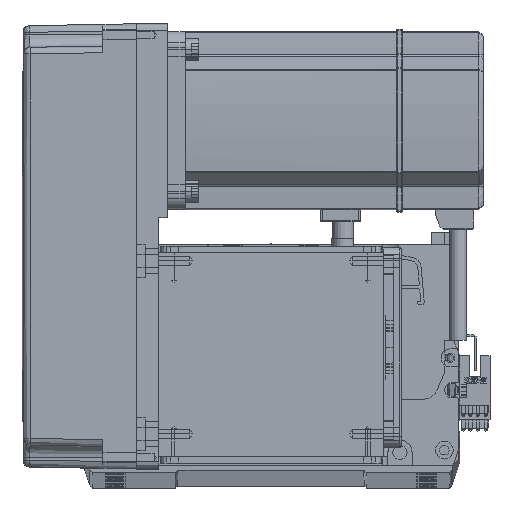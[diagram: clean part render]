
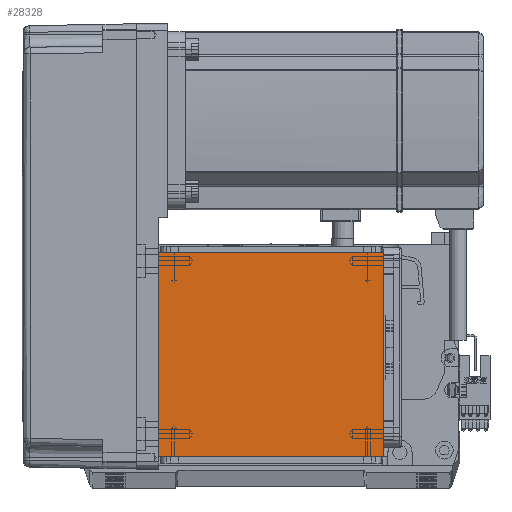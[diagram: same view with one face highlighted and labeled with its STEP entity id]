
A CAD part, top view. The second image highlights one B-rep face of the part: STEP entity #28328.
In plain terms, the highlighted planar face has unit normal (0, 0, 1).
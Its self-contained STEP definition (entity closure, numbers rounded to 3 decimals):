
#3246 = ORIENTED_EDGE ( 'NONE', *, *, #39934, .T. ) ;
#3563 = ORIENTED_EDGE ( 'NONE', *, *, #5451, .F. ) ;
#5107 = DIRECTION ( 'NONE',  ( 0., 1., 0. ) ) ;
#5451 = EDGE_CURVE ( 'NONE', #13254, #40436, #39485, .T. ) ;
#5818 = PLANE ( 'NONE',  #12975 ) ;
#6698 = EDGE_LOOP ( 'NONE', ( #36540, #3246, #3563, #57270 ) ) ;
#10858 = VECTOR ( 'NONE', #34991, 1000. ) ;
#12589 = DIRECTION ( 'NONE',  ( 0., -1., 0. ) ) ;
#12975 = AXIS2_PLACEMENT_3D ( 'NONE', #69884, #21794, #32601 ) ;
#13247 = LINE ( 'NONE', #43149, #68860 ) ;
#13254 = VERTEX_POINT ( 'NONE', #13541 ) ;
#13541 = CARTESIAN_POINT ( 'NONE',  ( 50.5, 20., 115. ) ) ;
#15017 = EDGE_CURVE ( 'NONE', #13254, #20788, #51167, .T. ) ;
#18157 = CARTESIAN_POINT ( 'NONE',  ( -50.5, 20., 115. ) ) ;
#20051 = FACE_OUTER_BOUND ( 'NONE', #6698, .T. ) ;
#20788 = VERTEX_POINT ( 'NONE', #50458 ) ;
#21794 = DIRECTION ( 'NONE',  ( 0., 0., 1. ) ) ;
#25619 = EDGE_CURVE ( 'NONE', #62963, #20788, #27102, .T. ) ;
#27102 = LINE ( 'NONE', #37451, #36350 ) ;
#28328 = ADVANCED_FACE ( 'NONE', ( #20051 ), #5818, .T. ) ;
#28924 = CARTESIAN_POINT ( 'NONE',  ( -50.5, 111.5, 115. ) ) ;
#32601 = DIRECTION ( 'NONE',  ( 1., 0., 0. ) ) ;
#34991 = DIRECTION ( 'NONE',  ( -1., 0., 0. ) ) ;
#36350 = VECTOR ( 'NONE', #43333, 1000. ) ;
#36540 = ORIENTED_EDGE ( 'NONE', *, *, #25619, .F. ) ;
#37451 = CARTESIAN_POINT ( 'NONE',  ( -70.004, 111.5, 115. ) ) ;
#39485 = LINE ( 'NONE', #62150, #10858 ) ;
#39934 = EDGE_CURVE ( 'NONE', #62963, #40436, #13247, .T. ) ;
#40436 = VERTEX_POINT ( 'NONE', #18157 ) ;
#43149 = CARTESIAN_POINT ( 'NONE',  ( -50.5, 122., 115. ) ) ;
#43333 = DIRECTION ( 'NONE',  ( 1., 0., 0. ) ) ;
#50458 = CARTESIAN_POINT ( 'NONE',  ( 50.5, 111.5, 115. ) ) ;
#51167 = LINE ( 'NONE', #58280, #59600 ) ;
#57270 = ORIENTED_EDGE ( 'NONE', *, *, #15017, .T. ) ;
#58280 = CARTESIAN_POINT ( 'NONE',  ( 50.5, 122., 115. ) ) ;
#59600 = VECTOR ( 'NONE', #5107, 1000. ) ;
#62150 = CARTESIAN_POINT ( 'NONE',  ( -70.004, 20., 115. ) ) ;
#62963 = VERTEX_POINT ( 'NONE', #28924 ) ;
#68860 = VECTOR ( 'NONE', #12589, 1000. ) ;
#69884 = CARTESIAN_POINT ( 'NONE',  ( 0., 0., 115. ) ) ;
